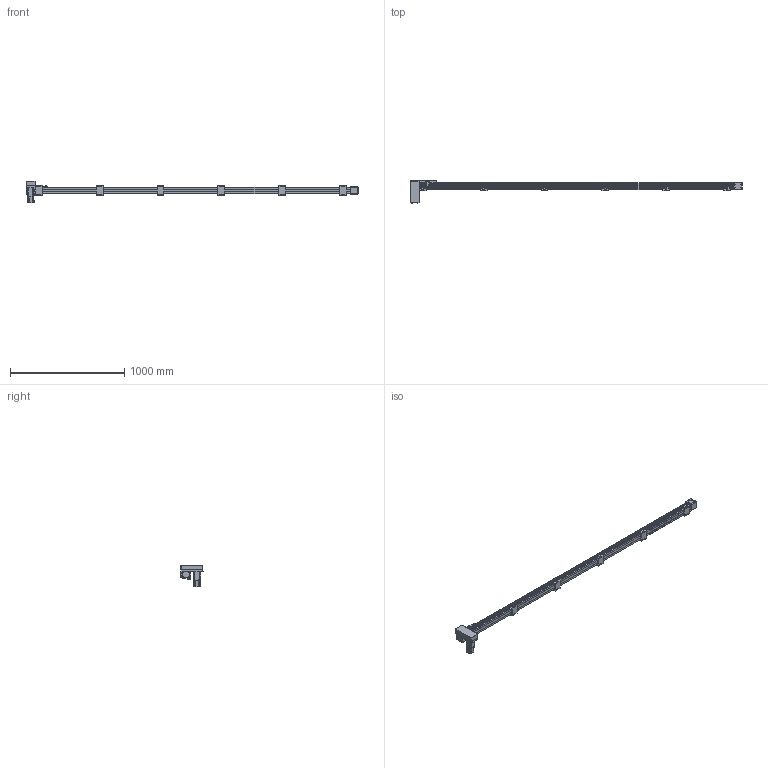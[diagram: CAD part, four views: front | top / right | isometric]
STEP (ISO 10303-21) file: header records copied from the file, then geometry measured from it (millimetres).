
FILE_DESCRIPTION(/* description */ ('STEP AP214'),/* implementation_level */ '2;1');
FILE_NAME(/* name */ 'SK60-P13-S2600-RD-T40-C1-N(0)',/* time_stamp */ '2023-04-06T04:57:14+02:00',/* author */ ('License CC BY-ND 4.0'),/* organization */ ('CADENAS'),/* preprocessor_version */ 'ST-DEVELOPER v19.3',/* originating_system */ 'PARTsolutions',/* authorisation */ ' ');
FILE_SCHEMA (('AUTOMOTIVE_DESIGN {1 0 10303 214 3 1 1}'));
Length unit declared in the file: millimetre
Products named in the file (10): SK60-P13-S2600-RD-T40-C1-N(0); PSC140-sensor; SK60-S450_seat; SK60-S450-BL-C1_slider; SK60_body3; SK60_body6; SK60-BL_body2; T40-p1; SK60-RD_fb; SK60-S2600-RD-C1_body
Assembly tree (20 placements, depth 2):
  SK60-P13-S2600-RD-T40-C1-N(0)
    PSC140-sensor  x3
    SK60-S450_seat  x6
    SK60-S450-BL-C1_slider
    SK60_body3  x3
    SK60_body6  x2
    SK60-BL_body2  x2
    T40-p1
    SK60-RD_fb
    SK60-S2600-RD-C1_body
Bounding box: 2905.5 x 199 x 189.7 mm (x, y, z)
Volume: 11091310.6 mm3; surface area: 1311184.8 mm2
Topology: 20 solids, 20 shells, 986 faces, 2440 edges, 1605 vertices
Faces by surface type: plane 620, cylinder 326, cone 38, torus 2
Full cylindrical faces by diameter (mm): 2.8 x3, 3.3 x4, 4 x2, 4.5 x30, 4.6 x3, 4.917 x32, 5 x6, 5.478 x4, 5.5 x35, 6.5 x12, 7 x2, 8 x4, 8.5 x4, 9.988 x4, 10 x24, 14 x1, 47 x3, 50 x2
Entity records: 18687 total; most frequent: DIRECTION 3192, CARTESIAN_POINT 3154, ORIENTED_EDGE 2940, EDGE_CURVE 1470, AXIS2_PLACEMENT_3D 1072, LINE 1048, VECTOR 1048, VERTEX_POINT 1034
